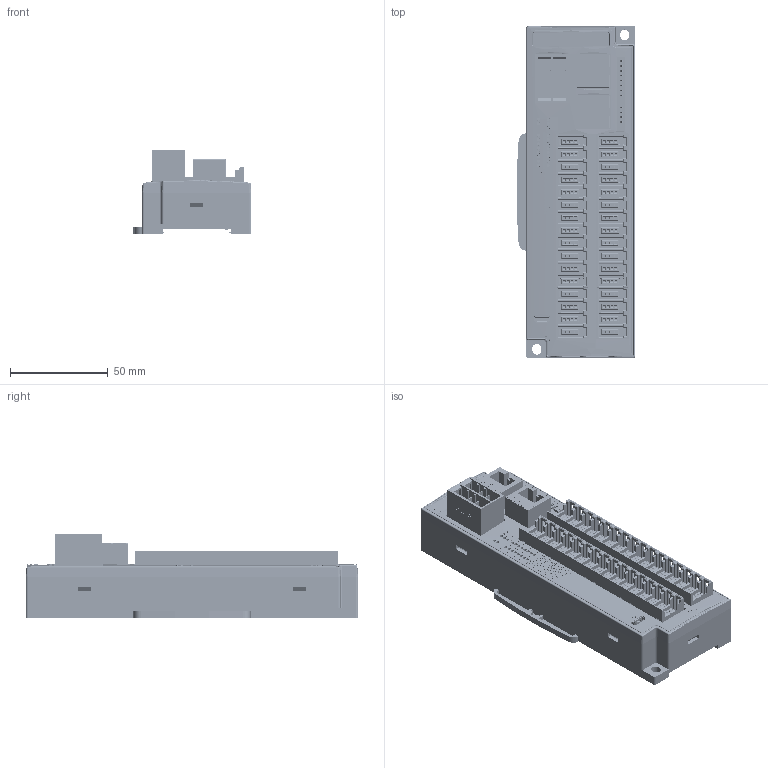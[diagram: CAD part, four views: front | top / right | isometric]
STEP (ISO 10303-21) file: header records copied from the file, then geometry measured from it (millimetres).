
FILE_DESCRIPTION((''),'2;1');
FILE_NAME('ECEP0W','2026-05-11T16:17:51',('gijyu181'),(''),'CREO PARAMETRIC BY PTC INC, 2018050','CREO PARAMETRIC BY PTC INC, 2018050','');
FILE_SCHEMA(('CONFIG_CONTROL_DESIGN','SHAPE_APPEARANCE_LAYERS_GROUPS'));
Products named in the file (1): ECEP0W
Bounding box: 60.87 x 170 x 42.6 mm (x, y, z)
Volume: 275218.3 mm3; surface area: 162520.6 mm2
Topology: 653 solids, 653 shells, 17496 faces, 46397 edges, 30958 vertices
Faces by surface type: plane 12795, extrusion 2467, cylinder 2099, bspline 69, cone 41, torus 21, sphere 4
Entity records: 667542 total; most frequent: CARTESIAN_POINT 151816, ORIENTED_EDGE 92794, DIRECTION 77423, EDGE_CURVE 46397, VECTOR 38139, LINE 35672, VERTEX_POINT 30958, AXIS2_PLACEMENT_3D 19642
